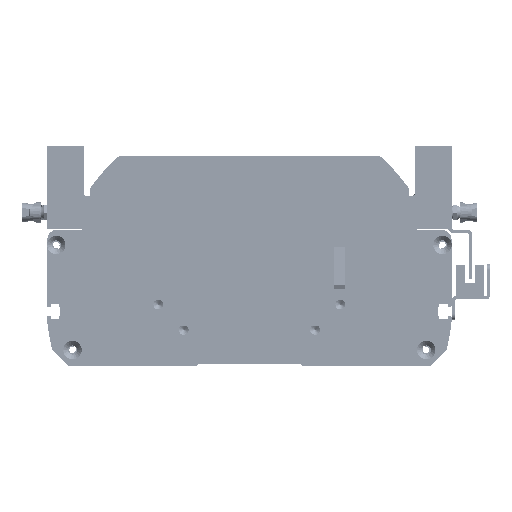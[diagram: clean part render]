
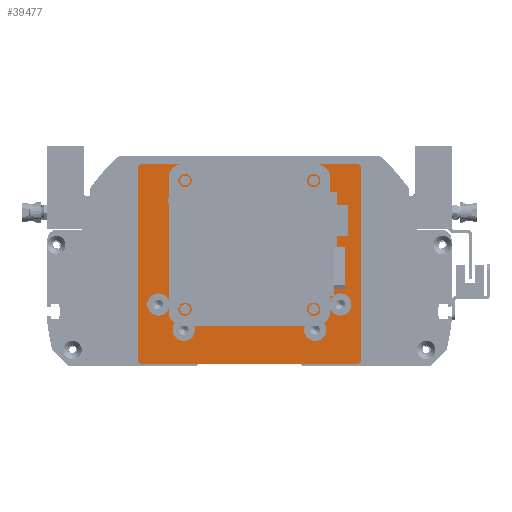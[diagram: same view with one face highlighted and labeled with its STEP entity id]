
A CAD part, front view. The second image highlights one B-rep face of the part: STEP entity #39477.
In plain terms, the highlighted planar face has unit normal (0, -1, 0) as drawn and (0, 0, 1) by its records, which use the part's own axes.
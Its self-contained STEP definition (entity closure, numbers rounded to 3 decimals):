
#3130=FACE_BOUND('',#9876,.T.);
#3131=FACE_BOUND('',#9877,.T.);
#3132=FACE_BOUND('',#9878,.T.);
#3133=FACE_BOUND('',#9879,.T.);
#3134=FACE_BOUND('',#9880,.T.);
#3135=FACE_BOUND('',#9881,.T.);
#3136=FACE_BOUND('',#9882,.T.);
#3137=FACE_BOUND('',#9883,.T.);
#3138=FACE_BOUND('',#9884,.T.);
#5234=CIRCLE('',#44171,2.459);
#5235=CIRCLE('',#44174,2.459);
#5236=CIRCLE('',#44182,2.459);
#5237=CIRCLE('',#44184,2.459);
#5240=CIRCLE('',#44189,5.5);
#5243=CIRCLE('',#44195,5.5);
#5246=CIRCLE('',#44201,5.5);
#5249=CIRCLE('',#44207,5.5);
#5251=CIRCLE('',#44212,35.);
#7318=FACE_OUTER_BOUND('',#9875,.T.);
#9875=EDGE_LOOP('',(#35929,#35930,#35931,#35932,#35933,#35934,#35935,#35936));
#9876=EDGE_LOOP('',(#35937));
#9877=EDGE_LOOP('',(#35938));
#9878=EDGE_LOOP('',(#35939));
#9879=EDGE_LOOP('',(#35940));
#9880=EDGE_LOOP('',(#35941));
#9881=EDGE_LOOP('',(#35942));
#9882=EDGE_LOOP('',(#35943));
#9883=EDGE_LOOP('',(#35944));
#9884=EDGE_LOOP('',(#35945));
#12815=LINE('',#70967,#15806);
#12818=LINE('',#70976,#15809);
#12821=LINE('',#70981,#15812);
#12823=LINE('',#70984,#15814);
#12824=LINE('',#70987,#15815);
#12826=LINE('',#70991,#15817);
#12828=LINE('',#70995,#15819);
#12841=LINE('',#71057,#15832);
#15806=VECTOR('',#55410,10.);
#15809=VECTOR('',#55419,10.);
#15812=VECTOR('',#55424,10.);
#15814=VECTOR('',#55428,10.);
#15815=VECTOR('',#55431,10.);
#15817=VECTOR('',#55435,10.);
#15819=VECTOR('',#55439,10.);
#15832=VECTOR('',#55518,10.);
#19540=VERTEX_POINT('',#70960);
#19541=VERTEX_POINT('',#70964);
#19542=VERTEX_POINT('',#70966);
#19543=VERTEX_POINT('',#70970);
#19544=VERTEX_POINT('',#70974);
#19545=VERTEX_POINT('',#70975);
#19546=VERTEX_POINT('',#70980);
#19547=VERTEX_POINT('',#70986);
#19548=VERTEX_POINT('',#70990);
#19549=VERTEX_POINT('',#70994);
#19550=VERTEX_POINT('',#70998);
#19551=VERTEX_POINT('',#71002);
#19554=VERTEX_POINT('',#71011);
#19557=VERTEX_POINT('',#71022);
#19560=VERTEX_POINT('',#71033);
#19563=VERTEX_POINT('',#71044);
#19565=VERTEX_POINT('',#71053);
#25017=EDGE_CURVE('',#19540,#19540,#5234,.T.);
#25020=EDGE_CURVE('',#19542,#19541,#12815,.T.);
#25022=EDGE_CURVE('',#19543,#19543,#5235,.T.);
#25024=EDGE_CURVE('',#19544,#19545,#12818,.T.);
#25027=EDGE_CURVE('',#19546,#19545,#12821,.T.);
#25029=EDGE_CURVE('',#19546,#19541,#12823,.T.);
#25030=EDGE_CURVE('',#19542,#19547,#12824,.T.);
#25032=EDGE_CURVE('',#19548,#19547,#12826,.T.);
#25034=EDGE_CURVE('',#19548,#19549,#12828,.T.);
#25036=EDGE_CURVE('',#19550,#19550,#5236,.T.);
#25038=EDGE_CURVE('',#19551,#19551,#5237,.T.);
#25042=EDGE_CURVE('',#19554,#19554,#5240,.T.);
#25047=EDGE_CURVE('',#19557,#19557,#5243,.T.);
#25052=EDGE_CURVE('',#19560,#19560,#5246,.T.);
#25057=EDGE_CURVE('',#19563,#19563,#5249,.T.);
#25061=EDGE_CURVE('',#19565,#19565,#5251,.T.);
#25063=EDGE_CURVE('',#19544,#19549,#12841,.T.);
#35929=ORIENTED_EDGE('',*,*,#25024,.F.);
#35930=ORIENTED_EDGE('',*,*,#25063,.T.);
#35931=ORIENTED_EDGE('',*,*,#25034,.F.);
#35932=ORIENTED_EDGE('',*,*,#25032,.T.);
#35933=ORIENTED_EDGE('',*,*,#25030,.F.);
#35934=ORIENTED_EDGE('',*,*,#25020,.T.);
#35935=ORIENTED_EDGE('',*,*,#25029,.F.);
#35936=ORIENTED_EDGE('',*,*,#25027,.T.);
#35937=ORIENTED_EDGE('',*,*,#25036,.T.);
#35938=ORIENTED_EDGE('',*,*,#25022,.T.);
#35939=ORIENTED_EDGE('',*,*,#25038,.T.);
#35940=ORIENTED_EDGE('',*,*,#25017,.T.);
#35941=ORIENTED_EDGE('',*,*,#25042,.T.);
#35942=ORIENTED_EDGE('',*,*,#25047,.T.);
#35943=ORIENTED_EDGE('',*,*,#25052,.T.);
#35944=ORIENTED_EDGE('',*,*,#25057,.T.);
#35945=ORIENTED_EDGE('',*,*,#25061,.T.);
#37426=PLANE('',#44214);
#39477=ADVANCED_FACE('',(#7318,#3130,#3131,#3132,#3133,#3134,#3135,#3136,
#3137,#3138),#37426,.T.);
#44171=AXIS2_PLACEMENT_3D('',#70961,#55404,#55405);
#44174=AXIS2_PLACEMENT_3D('',#70971,#55414,#55415);
#44182=AXIS2_PLACEMENT_3D('',#70999,#55443,#55444);
#44184=AXIS2_PLACEMENT_3D('',#71003,#55448,#55449);
#44189=AXIS2_PLACEMENT_3D('',#71012,#55459,#55460);
#44195=AXIS2_PLACEMENT_3D('',#71023,#55473,#55474);
#44201=AXIS2_PLACEMENT_3D('',#71034,#55487,#55488);
#44207=AXIS2_PLACEMENT_3D('',#71045,#55501,#55502);
#44212=AXIS2_PLACEMENT_3D('',#71054,#55513,#55514);
#44214=AXIS2_PLACEMENT_3D('',#71058,#55519,#55520);
#55404=DIRECTION('center_axis',(0.,0.,-1.));
#55405=DIRECTION('ref_axis',(1.,0.,0.));
#55410=DIRECTION('',(-1.,0.,0.));
#55414=DIRECTION('center_axis',(0.,0.,-1.));
#55415=DIRECTION('ref_axis',(1.,0.,0.));
#55419=DIRECTION('',(-0.707,0.707,0.));
#55424=DIRECTION('',(0.,-1.,0.));
#55428=DIRECTION('',(0.707,0.707,0.));
#55431=DIRECTION('',(0.707,-0.707,0.));
#55435=DIRECTION('',(0.,1.,0.));
#55439=DIRECTION('',(-0.707,-0.707,0.));
#55443=DIRECTION('center_axis',(0.,0.,-1.));
#55444=DIRECTION('ref_axis',(1.,0.,0.));
#55448=DIRECTION('center_axis',(0.,0.,-1.));
#55449=DIRECTION('ref_axis',(1.,0.,0.));
#55459=DIRECTION('center_axis',(0.,0.,-1.));
#55460=DIRECTION('ref_axis',(1.,0.,0.));
#55473=DIRECTION('center_axis',(0.,0.,-1.));
#55474=DIRECTION('ref_axis',(1.,0.,0.));
#55487=DIRECTION('center_axis',(0.,0.,-1.));
#55488=DIRECTION('ref_axis',(1.,0.,0.));
#55501=DIRECTION('center_axis',(0.,0.,-1.));
#55502=DIRECTION('ref_axis',(1.,0.,0.));
#55513=DIRECTION('center_axis',(0.,0.,-1.));
#55514=DIRECTION('ref_axis',(1.,0.,0.));
#55518=DIRECTION('',(1.,0.,0.));
#55519=DIRECTION('center_axis',(0.,0.,1.));
#55520=DIRECTION('ref_axis',(1.,0.,0.));
#70960=CARTESIAN_POINT('',(29.361,41.32,89.));
#70961=CARTESIAN_POINT('Origin',(31.82,41.32,89.));
#70964=CARTESIAN_POINT('',(-54.,49.5,89.));
#70966=CARTESIAN_POINT('',(54.,49.5,89.));
#70967=CARTESIAN_POINT('',(55.,49.5,89.));
#70970=CARTESIAN_POINT('',(-34.278,41.32,89.));
#70971=CARTESIAN_POINT('Origin',(-31.82,41.32,89.));
#70974=CARTESIAN_POINT('',(-54.,-49.5,89.));
#70975=CARTESIAN_POINT('',(-55.,-48.5,89.));
#70976=CARTESIAN_POINT('',(-53.125,-50.375,89.));
#70980=CARTESIAN_POINT('',(-55.,48.5,89.));
#70981=CARTESIAN_POINT('',(-55.,49.5,89.));
#70984=CARTESIAN_POINT('',(-53.125,50.375,89.));
#70986=CARTESIAN_POINT('',(55.,48.5,89.));
#70987=CARTESIAN_POINT('',(53.125,50.375,89.));
#70990=CARTESIAN_POINT('',(55.,-48.5,89.));
#70991=CARTESIAN_POINT('',(55.,-49.5,89.));
#70994=CARTESIAN_POINT('',(54.,-49.5,89.));
#70995=CARTESIAN_POINT('',(53.125,-50.375,89.));
#70998=CARTESIAN_POINT('',(29.361,-22.32,89.));
#70999=CARTESIAN_POINT('Origin',(31.82,-22.32,89.));
#71002=CARTESIAN_POINT('',(-34.278,-22.32,89.));
#71003=CARTESIAN_POINT('Origin',(-31.82,-22.32,89.));
#71011=CARTESIAN_POINT('',(27.,-32.5,89.));
#71012=CARTESIAN_POINT('Origin',(32.5,-32.5,89.));
#71022=CARTESIAN_POINT('',(-50.5,-20.,89.));
#71023=CARTESIAN_POINT('Origin',(-45.,-20.,89.));
#71033=CARTESIAN_POINT('',(-38.,-32.5,89.));
#71034=CARTESIAN_POINT('Origin',(-32.5,-32.5,89.));
#71044=CARTESIAN_POINT('',(39.5,-20.,89.));
#71045=CARTESIAN_POINT('Origin',(45.,-20.,89.));
#71053=CARTESIAN_POINT('',(-35.,9.5,89.));
#71054=CARTESIAN_POINT('Origin',(0.,9.5,89.));
#71057=CARTESIAN_POINT('',(-55.,-49.5,89.));
#71058=CARTESIAN_POINT('Origin',(0.,0.,
89.));
